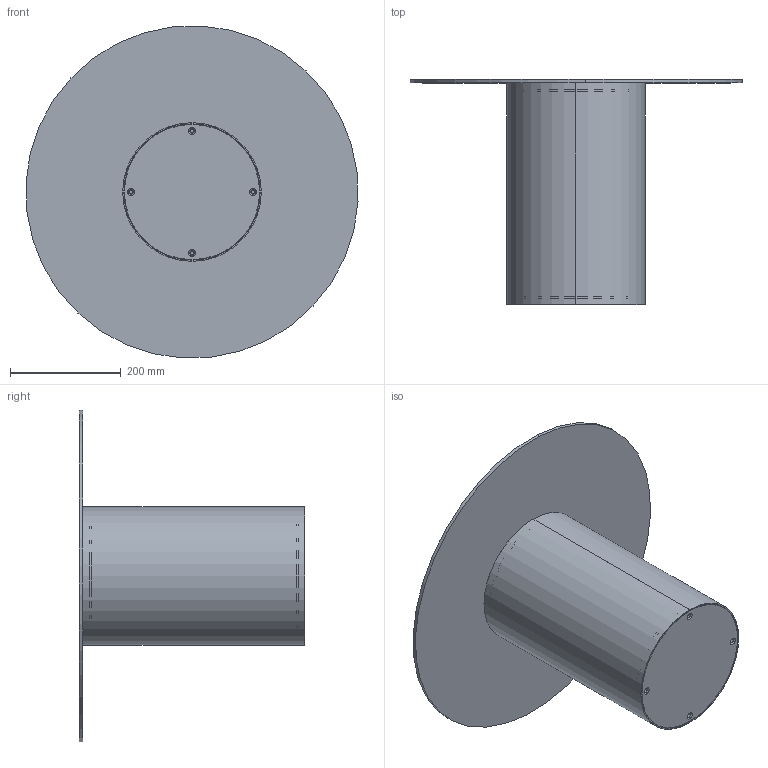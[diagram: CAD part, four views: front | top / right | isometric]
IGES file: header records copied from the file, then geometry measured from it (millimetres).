
Start section: SolidWorks IGES file using analytic representation for surfaces
Global section: file name: Y:\eforma\TECNICO\SOLIDWORKS\E-FORMA\2-TAVOLINI\CILINDRO LOW\02 parts\CL01G.IGS; native system: SolidWorks 2022; preprocessor: SolidWorks 2022; author: eforma.tech; date: 240806.121002; units: millimetre
Bounding box: 599.01 x 406 x 599.01 mm (x, y, z)
Volume: 3063048.9 mm3; surface area: 1440700.1 mm2
Topology: 9 solids, 9 shells, 116 faces, 278 edges, 180 vertices
Faces by surface type: revolution 84, plane 32
